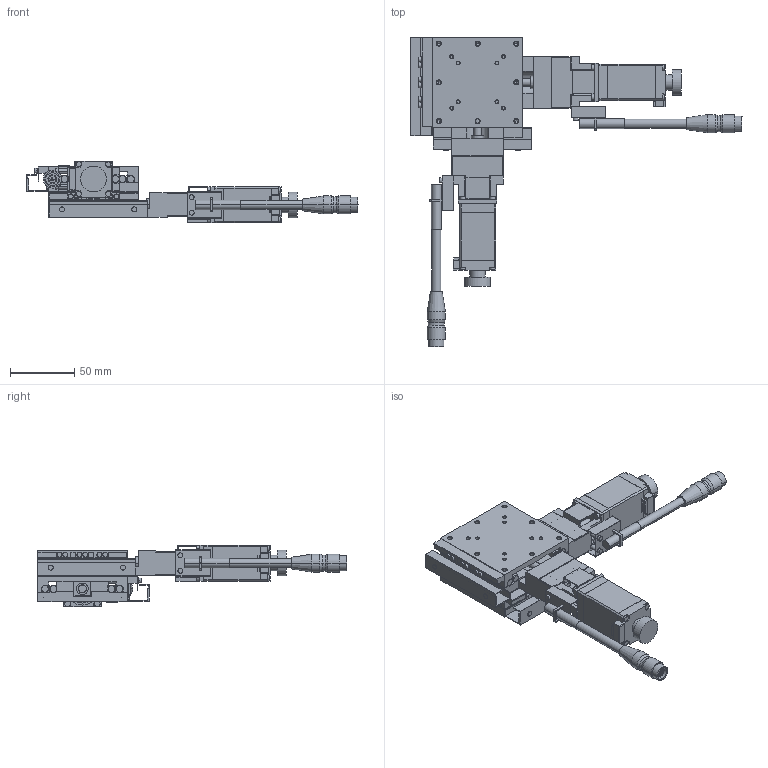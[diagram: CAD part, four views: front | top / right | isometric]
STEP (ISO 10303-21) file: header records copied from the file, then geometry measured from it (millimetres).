
FILE_DESCRIPTION(('STEP AP203'),'1');
FILE_NAME('C:/3D-Trans/3D_PMG715T-R□-D4+240122.step','2024-03-14T04:40:43',(' '),(' '),'Spatial InterOp 3D',' ',' ');
FILE_SCHEMA(('CONFIG_CONTROL_DESIGN'));
Length unit declared in the file: millimetre
Products named in the file (12): 1; 2; 3; 4; 5; 6; 7; 8; 9; 10; 11; 12
Bounding box: 257.4 x 240 x 48 mm (x, y, z)
Volume: 306477.4 mm3; surface area: 136393.7 mm2
Topology: 12 solids, 12 shells, 1494 faces, 3754 edges, 2386 vertices
Faces by surface type: plane 828, cylinder 500, cone 164, extrusion 2
Entity records: 45572 total; most frequent: CARTESIAN_POINT 8250, DIRECTION 7902, ORIENTED_EDGE 7428, EDGE_CURVE 3714, AXIS2_PLACEMENT_3D 2710, VECTOR 2482, LINE 2480, VERTEX_POINT 2386
